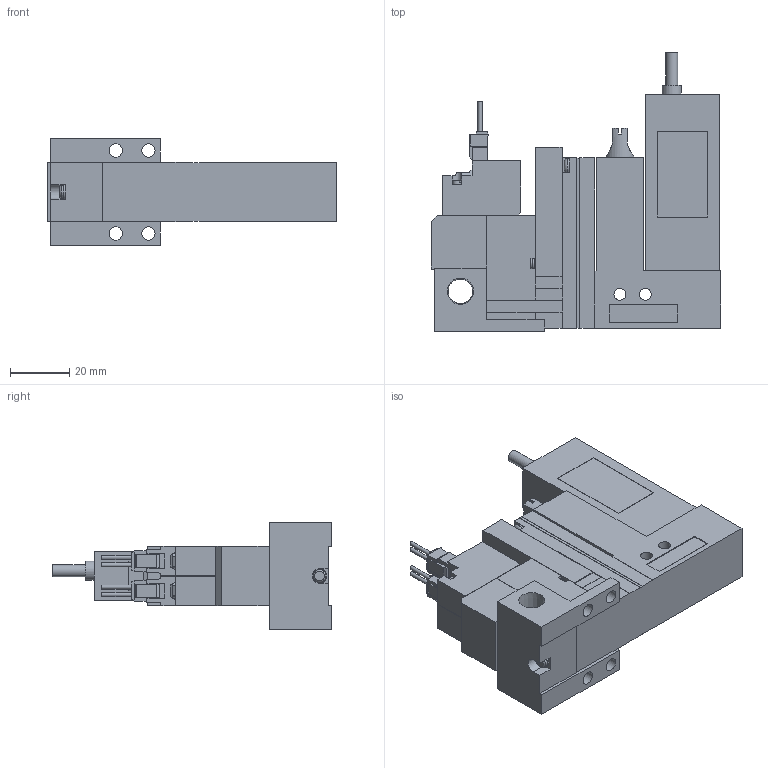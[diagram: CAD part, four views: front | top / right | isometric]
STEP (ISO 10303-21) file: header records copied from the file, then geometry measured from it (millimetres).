
FILE_DESCRIPTION(('STEP AP203'),'1');
FILE_NAME('VG_VGPLC5BLR101.stp','2025-02-18T05:34:49',(' '),(' '),'Spatial InterOp 3D',' ',' ');
FILE_SCHEMA(('CONFIG_CONTROL_DESIGN'));
Length unit declared in the file: millimetre
Products named in the file (5): BMC22M※※※※VG_VGPLC5BLR101; Solenoid valve B; Pressure sensor VGLC; Unit LC; Base MR10R
Assembly tree (4 placements, depth 2):
  BMC22M※※※※VG_VGPLC5BLR101
    Solenoid valve B
    Pressure sensor VGLC
    Unit LC
    Base MR10R
Bounding box: 97.6 x 94 x 36 mm (x, y, z)
Volume: 116549.1 mm3; surface area: 31316.4 mm2
Topology: 4 solids, 4 shells, 412 faces, 1106 edges, 730 vertices
Faces by surface type: plane 346, cylinder 52, cone 9, torus 5
Full cylindrical faces by diameter (mm): 1.4 x4, 2.5 x3, 3 x4, 3.5 x4, 3.6 x1, 4 x6, 4.134 x1, 4.5 x4, 5.2 x1, 6 x1, 6.5 x1, 6.6 x1, 8.279 x1
Entity records: 12753 total; most frequent: CARTESIAN_POINT 2357, ORIENTED_EDGE 2072, DIRECTION 2010, EDGE_CURVE 1036, LINE 882, VECTOR 882, VERTEX_POINT 710, AXIS2_PLACEMENT_3D 564
